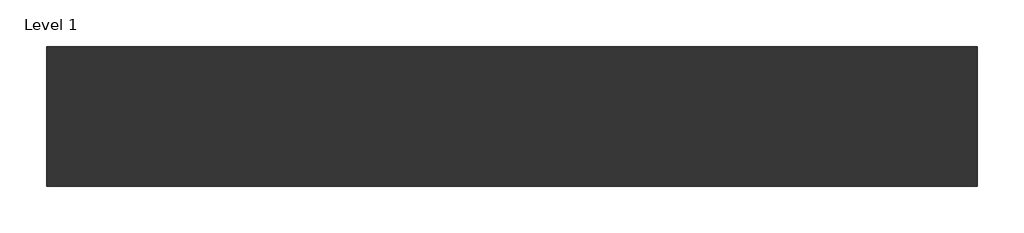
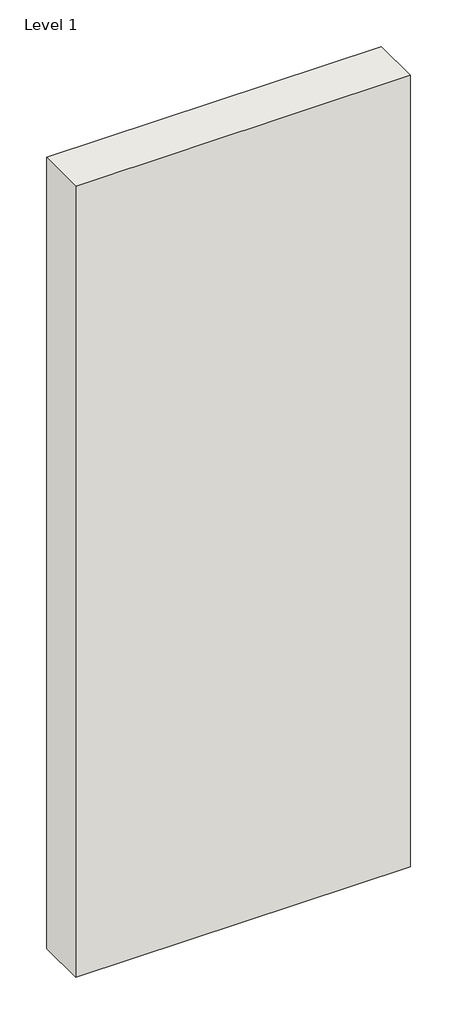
# One storey: 1 wall.
"""IFC4 building model written with IfcOpenShell, lengths in millimetres."""

from ifc_helpers import new_model, si_unit, origin, origin_with_axes, place, context, project, spatial, polyline, outline, extrude, element, save

model = new_model("IFC4")

# Units and contexts
model_context = context("Model", 3, world=origin())
ifc_project = project(units=[si_unit("LENGTHUNIT", "METRE", prefix="MILLI")], contexts=[model_context])

# Site, building, storey
site = spatial("IfcSite", under=ifc_project)
building = spatial("IfcBuilding", under=site)
storey = spatial("IfcBuildingStorey", under=building, Name="Level 1", Elevation=0.0)

# Wall
placement = place(None, origin())
element("IfcWall", 1, ObjectType="RIGIPS - 3.40.06 - EI 30, REI 30 - 6500 - 57dB", at=placement, inside=storey, context=model_context, shape_type="SweptSolid", body=[
    extrude(outline(polyline([(1000.0, -75.0), (0.0, -75.0), (0.0, 75.0), (1000.0, 75.0), (1000.0, -75.0)])), origin_with_axes(), (0.0, 0.0, 1.0), 2500.0),
])

save(model, "model.ifc")
